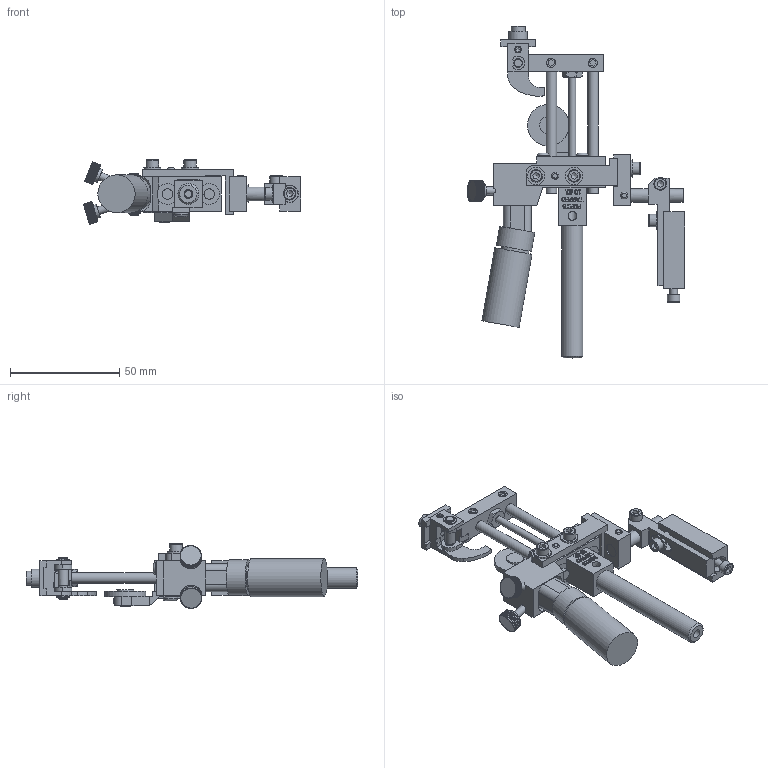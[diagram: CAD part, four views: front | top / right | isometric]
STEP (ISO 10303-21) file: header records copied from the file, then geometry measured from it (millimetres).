
FILE_DESCRIPTION((''),'2;1');
FILE_NAME('C:\Documents and Settings\Ron\My Documents\Inventor\Sprinter Drawing\Machines in Inventor\Model 22\Dot\1-fourth\Std\Brkt\Ext\Model 22 STD 1-4 dot ext w brkt.stp','2009-01-14T08:14:18',('Ron'),(''),'Autodesk Inventor 2008','Autodesk Inventor 2008','');
FILE_SCHEMA(('AUTOMOTIVE_DESIGN { 1 0 10303 214 1 1 1 1 }'));
Length unit declared in the file: inch
Products named in the file (1): Model 22 STD 1-4 dot ext w brkt
Bounding box: 99.17 x 151.65 x 29.56 mm (x, y, z)
Volume: 56999.8 mm3; surface area: 34093.5 mm2
Topology: 35 solids, 35 shells, 4739 faces, 13117 edges, 8703 vertices
Faces by surface type: plane 2894, bspline 1291, cylinder 484, cone 56, torus 14
Full cylindrical faces by diameter (mm): 2.845 x3, 2.946 x2, 3.175 x4, 3.505 x7, 3.556 x2, 3.658 x2, 3.876 x1, 3.962 x9, 4.064 x1, 4.166 x3, 4.648 x2, 4.699 x1, 4.75 x1, 4.763 x2, 4.775 x2, 4.788 x1, 5.41 x2, 5.74 x6, 6.096 x1, 6.325 x2, 6.35 x4, 6.477 x1, 6.655 x1, 7.925 x4, 7.938 x1, 8.128 x1, 8.334 x1, 9.462 x1, 9.525 x1, 10.922 x1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
Entity records: 165575 total; most frequent: CARTESIAN_POINT 49168, ORIENTED_EDGE 25668, DIRECTION 18365, EDGE_CURVE 12834, VECTOR 9051, LINE 9051, VERTEX_POINT 8600, EDGE_LOOP 5260
